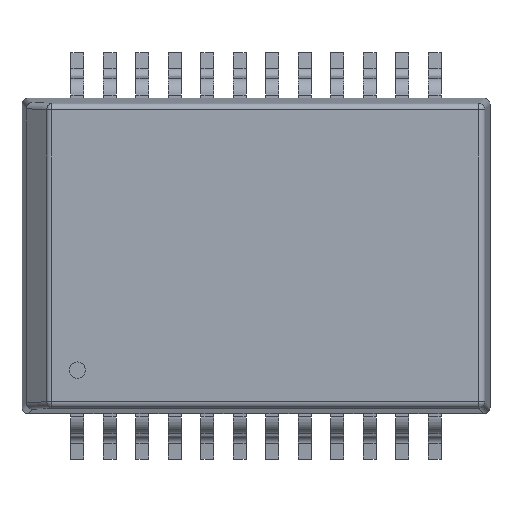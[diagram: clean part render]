
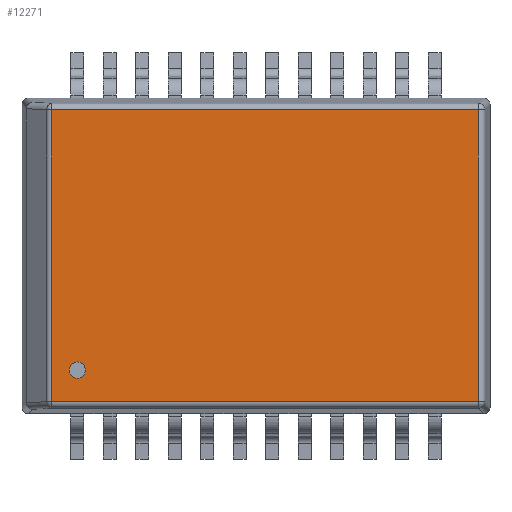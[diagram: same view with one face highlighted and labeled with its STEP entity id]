
A CAD part, top view. The second image highlights one B-rep face of the part: STEP entity #12271.
In plain terms, the highlighted planar face has unit normal (0, 0, 1).
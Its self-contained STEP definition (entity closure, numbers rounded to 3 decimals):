
#241 = VECTOR ( 'NONE', #14611, 1000. ) ;
#497 = EDGE_CURVE ( 'NONE', #2464, #16369, #3688, .T. ) ;
#500 = DIRECTION ( 'NONE',  ( 0., 0., 1. ) ) ;
#1092 = EDGE_LOOP ( 'NONE', ( #15089, #4967 ) ) ;
#1140 = EDGE_CURVE ( 'NONE', #8360, #14741, #12579, .T. ) ;
#2014 = CARTESIAN_POINT ( 'NONE',  ( 9.144, -5.937, 8.659 ) ) ;
#2211 = AXIS2_PLACEMENT_3D ( 'NONE', #8735, #8616, #7950 ) ;
#2464 = VERTEX_POINT ( 'NONE', #5196 ) ;
#2899 = AXIS2_PLACEMENT_3D ( 'NONE', #8663, #500, #10013 ) ;
#3300 = EDGE_CURVE ( 'NONE', #12117, #6837, #14854, .T. ) ;
#3370 = DIRECTION ( 'NONE',  ( 0., 1., 0. ) ) ;
#3452 = ORIENTED_EDGE ( 'NONE', *, *, #8212, .T. ) ;
#3674 = CARTESIAN_POINT ( 'NONE',  ( 9.144, 5.701, 8.659 ) ) ;
#3688 = CIRCLE ( 'NONE', #2211, 0.317 ) ;
#3801 = DIRECTION ( 'NONE',  ( -1., 0., 0. ) ) ;
#3982 = ORIENTED_EDGE ( 'NONE', *, *, #3300, .T. ) ;
#4017 = DIRECTION ( 'NONE',  ( 0., 1., 0. ) ) ;
#4019 = VECTOR ( 'NONE', #8538, 1000. ) ;
#4199 = CARTESIAN_POINT ( 'NONE',  ( -8.006, 5.701, 8.659 ) ) ;
#4687 = VECTOR ( 'NONE', #3801, 1000. ) ;
#4967 = ORIENTED_EDGE ( 'NONE', *, *, #497, .F. ) ;
#5196 = CARTESIAN_POINT ( 'NONE',  ( -7.303, -4.466, 8.659 ) ) ;
#6837 = VERTEX_POINT ( 'NONE', #13710 ) ;
#7950 = DIRECTION ( 'NONE',  ( 1., 0., 0. ) ) ;
#8212 = EDGE_CURVE ( 'NONE', #6837, #8360, #12638, .T. ) ;
#8360 = VERTEX_POINT ( 'NONE', #15157 ) ;
#8538 = DIRECTION ( 'NONE',  ( 1., 0., 0. ) ) ;
#8574 = FACE_OUTER_BOUND ( 'NONE', #13836, .T. ) ;
#8616 = DIRECTION ( 'NONE',  ( 0., 0., 1. ) ) ;
#8663 = CARTESIAN_POINT ( 'NONE',  ( -6.985, -4.466, 8.659 ) ) ;
#8735 = CARTESIAN_POINT ( 'NONE',  ( -6.985, -4.466, 8.659 ) ) ;
#8756 = ORIENTED_EDGE ( 'NONE', *, *, #1140, .T. ) ;
#9325 = ORIENTED_EDGE ( 'NONE', *, *, #17476, .T. ) ;
#9494 = CIRCLE ( 'NONE', #2899, 0.317 ) ;
#10013 = DIRECTION ( 'NONE',  ( 1., 0., 0. ) ) ;
#10534 = CARTESIAN_POINT ( 'NONE',  ( -8.006, -5.696, 8.659 ) ) ;
#10582 = CARTESIAN_POINT ( 'NONE',  ( -6.668, -4.466, 8.659 ) ) ;
#11188 = EDGE_CURVE ( 'NONE', #16369, #2464, #9494, .T. ) ;
#11521 = DIRECTION ( 'NONE',  ( 0., 0., -1. ) ) ;
#12117 = VERTEX_POINT ( 'NONE', #13888 ) ;
#12271 = ADVANCED_FACE ( 'NONE', ( #8574, #15763 ), #14191, .F. ) ;
#12579 = LINE ( 'NONE', #3674, #4687 ) ;
#12638 = LINE ( 'NONE', #13500, #16197 ) ;
#13142 = AXIS2_PLACEMENT_3D ( 'NONE', #2014, #11521, #3370 ) ;
#13500 = CARTESIAN_POINT ( 'NONE',  ( 8.685, 5.684, 8.659 ) ) ;
#13710 = CARTESIAN_POINT ( 'NONE',  ( 8.685, -5.701, 8.659 ) ) ;
#13836 = EDGE_LOOP ( 'NONE', ( #3982, #3452, #8756, #9325 ) ) ;
#13888 = CARTESIAN_POINT ( 'NONE',  ( -8.006, -5.701, 8.659 ) ) ;
#14191 = PLANE ( 'NONE',  #13142 ) ;
#14611 = DIRECTION ( 'NONE',  ( 0., -1., 0. ) ) ;
#14685 = LINE ( 'NONE', #10534, #241 ) ;
#14741 = VERTEX_POINT ( 'NONE', #4199 ) ;
#14854 = LINE ( 'NONE', #15282, #4019 ) ;
#15089 = ORIENTED_EDGE ( 'NONE', *, *, #11188, .F. ) ;
#15157 = CARTESIAN_POINT ( 'NONE',  ( 8.685, 5.701, 8.659 ) ) ;
#15282 = CARTESIAN_POINT ( 'NONE',  ( 9.144, -5.701, 8.659 ) ) ;
#15763 = FACE_BOUND ( 'NONE', #1092, .T. ) ;
#16197 = VECTOR ( 'NONE', #4017, 1000. ) ;
#16369 = VERTEX_POINT ( 'NONE', #10582 ) ;
#17476 = EDGE_CURVE ( 'NONE', #14741, #12117, #14685, .T. ) ;
